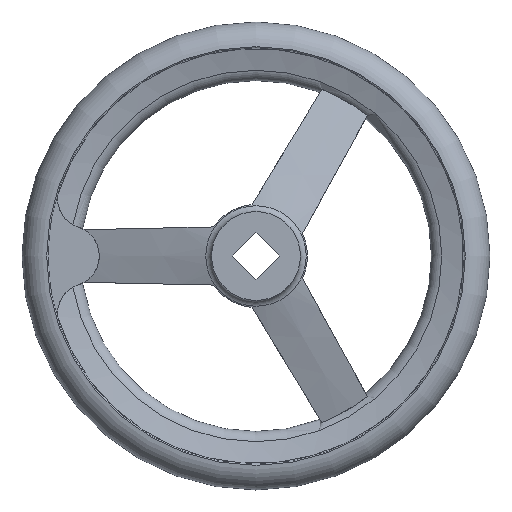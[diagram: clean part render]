
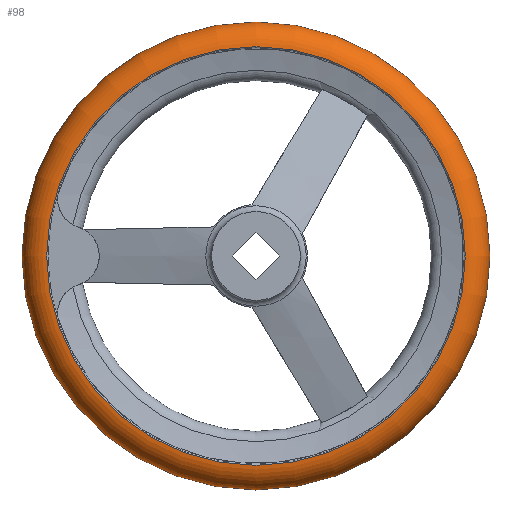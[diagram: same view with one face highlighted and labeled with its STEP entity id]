
A CAD part, left-side view. The second image highlights one B-rep face of the part: STEP entity #98.
In plain terms, the highlighted toroidal (fillet/blend) face has major radius 88.99 mm and minor radius 11.01 mm.
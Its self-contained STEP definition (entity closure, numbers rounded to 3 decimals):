
#98 = ADVANCED_FACE( '', ( #178, #179, #180 ), #181, .T. );
#178 = FACE_BOUND( '', #285, .T. );
#179 = FACE_OUTER_BOUND( '', #286, .T. );
#180 = FACE_OUTER_BOUND( '', #287, .T. );
#181 = TOROIDAL_SURFACE( '', #288, 88.99, 11.01 );
#285 = VERTEX_LOOP( '', #527 );
#286 = EDGE_LOOP( '', ( #528 ) );
#287 = EDGE_LOOP( '', ( #529 ) );
#288 = AXIS2_PLACEMENT_3D( '', #530, #531, #532 );
#527 = VERTEX_POINT( '', #771 );
#528 = ORIENTED_EDGE( '', *, *, #770, .T. );
#529 = ORIENTED_EDGE( '', *, *, #772, .F. );
#530 = CARTESIAN_POINT( '', ( 34., 0., 0. ) );
#531 = DIRECTION( '', ( 1., 0., 0. ) );
#532 = DIRECTION( '', ( 0., 1., 0. ) );
#770 = EDGE_CURVE( '', #949, #949, #950, .T. );
#771 = CARTESIAN_POINT( '', ( 34., 100., 0. ) );
#772 = EDGE_CURVE( '', #951, #951, #952, .T. );
#949 = VERTEX_POINT( '', #1607 );
#950 = CIRCLE( '', #1608, 89.458 );
#951 = VERTEX_POINT( '', #1609 );
#952 = CIRCLE( '', #1610, 89.458 );
#1607 = CARTESIAN_POINT( '', ( 23., 89.458, 0. ) );
#1608 = AXIS2_PLACEMENT_3D( '', #1784, #1785, #1786 );
#1609 = CARTESIAN_POINT( '', ( 45., 89.458, 0. ) );
#1610 = AXIS2_PLACEMENT_3D( '', #1787, #1788, #1789 );
#1784 = CARTESIAN_POINT( '', ( 23., 0., 0. ) );
#1785 = DIRECTION( '', ( 1., 0., 0. ) );
#1786 = DIRECTION( '', ( 0., 1., 0. ) );
#1787 = CARTESIAN_POINT( '', ( 45., 0., 0. ) );
#1788 = DIRECTION( '', ( 1., 0., 0. ) );
#1789 = DIRECTION( '', ( 0., 1., 0. ) );
